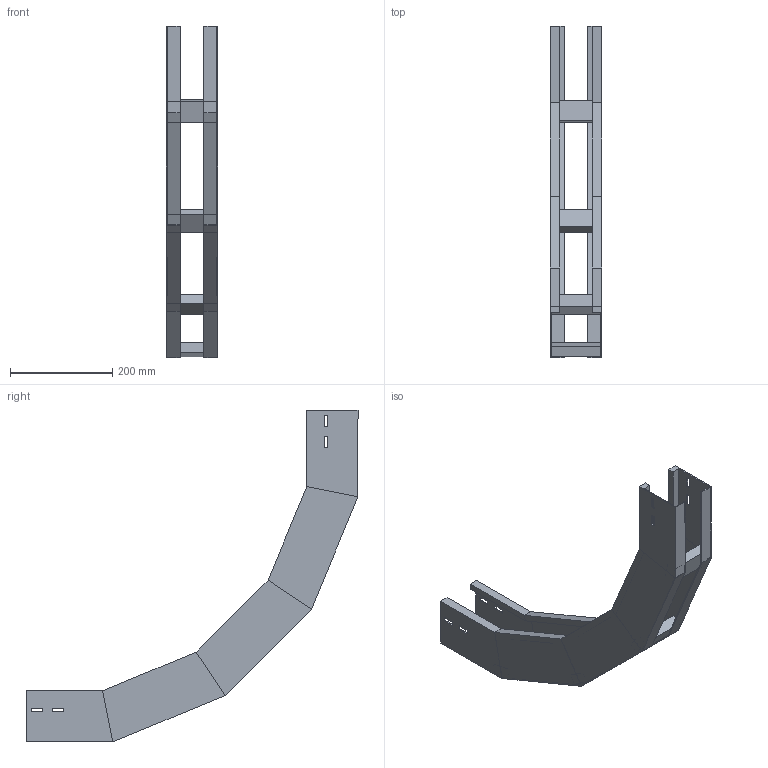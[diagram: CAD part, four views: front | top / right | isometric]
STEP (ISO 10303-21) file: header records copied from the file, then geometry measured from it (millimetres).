
FILE_DESCRIPTION (( 'STEP AP214' ), '1' );
FILE_NAME ('B2X30B5D100XX.step', '2025-03-20T10:20:37', ( '' ), ( '' ), 'SwSTEP 2.0', 'SolidWorks 2023', '' );
FILE_SCHEMA (( 'AUTOMOTIVE_DESIGN' ));
Length unit declared in the file: millimetre
Products named in the file (3): LONGH.SALITA_90°_H100_R500; B2X30B5D100XX; TRAVERSINO_100
Assembly tree (6 placements, depth 2):
  B2X30B5D100XX
    LONGH.SALITA_90°_H100_R500  x2
    TRAVERSINO_100  x4
Bounding box: 100 x 649.05 x 649.05 mm (x, y, z)
Volume: 1150445.4 mm3; surface area: 613583.1 mm2
Topology: 6 solids, 6 shells, 140 faces, 320 edges, 192 vertices
Faces by surface type: plane 140
Entity records: 1872 total; most frequent: CARTESIAN_POINT 309, ORIENTED_EDGE 296, DIRECTION 294, LINE 148, VECTOR 148, EDGE_CURVE 148, VERTEX_POINT 88, AXIS2_PLACEMENT_3D 73
